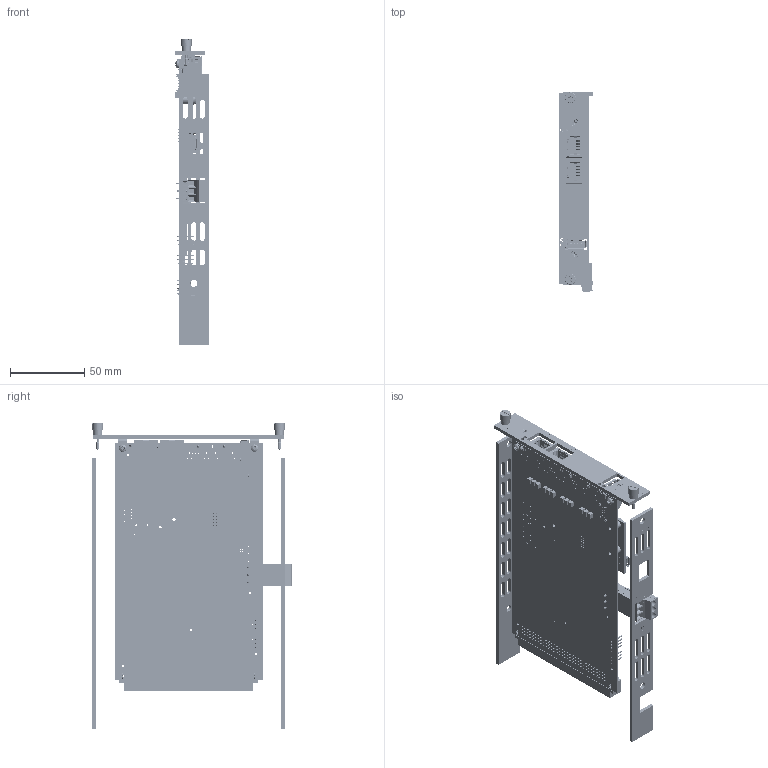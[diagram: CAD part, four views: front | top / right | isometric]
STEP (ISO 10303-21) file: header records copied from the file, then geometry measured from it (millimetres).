
FILE_DESCRIPTION (( 'STEP AP214' ), '1' );
FILE_NAME ('3-4241BEU-2xx-B00000.STEP', '2022-09-28T22:25:47', ( '' ), ( '' ), 'SwSTEP 2.0', 'SolidWorks 2022', '' );
FILE_SCHEMA (( 'AUTOMOTIVE_DESIGN' ));
Length unit declared in the file: inch
Products named in the file (37): 2M1-B03032-551; S14-105017-USB; 014-0RJE73-4K0; S14-CLT000-012; 0S6-001102-ILO; 2M0-603041-550; 025-920440-2004; 014-000031; 0S1-000067; APTB1612YSGC-F01; 300-604241-10X_102_OPT 2- 2 ETHERNET PORTS; 3-4241BEU-2xx-B00000; 0S6-RG1204-000_b; 2M1-B04241-551; 016-P00103-08P; 0S1-LS1021-1KZ; S25-0S0440-250_b; 025-92M2R5-2006_cosmetic; 0S6-001102-ILO_b; 014-000010-2MM; 025-10M2R5-2005_5mm; 0S7-010226-000; 016-090A03-08P; 014-048404-003; 100-0002GB-M3B; 2M2-B04112-551; S14-00DDR3-204; 300-604147-103; S13-0H5007-0NL; 200-604147-553; 200-604019-100_no knurling; 027-000001; 0S1-LCMX02-256; S19-PTS840-0GK; 014-000010; 200-604241-552_Full
Assembly tree (56 placements, depth 4):
  3-4241BEU-2xx-B00000
    2M1-B04241-551
      2M1-B04241-551
      2M0-603041-550  x2
      025-10M2R5-2005_5mm  x2
    300-604241-10X_102_OPT 2- 2 ETHERNET PORTS
      200-604241-552_Full
      0S7-010226-000  x12
      0S1-LCMX02-256
      0S1-LS1021-1KZ
      S13-0H5007-0NL  x2
      014-0RJE73-4K0  x2
      014-048404-003
      016-090A03-08P
      S25-0S0440-250_b  x2
      300-604147-103
        200-604147-553
        S14-105017-USB
        S14-CLT000-012
      0S6-001102-ILO_b
      0S6-RG1204-000_b
      S19-PTS840-0GK
      APTB1612YSGC-F01
      0S6-001102-ILO  x2
      S14-00DDR3-204
      014-000031
      0S1-000067
      014-000010-2MM
      014-000010
    2M2-B04112-551
    2M1-B03032-551
    016-P00103-08P
    027-000001
    025-92M2R5-2006_cosmetic  x2
    100-0002GB-M3B
    025-920440-2004  x2
    200-604019-100_no knurling  x2
Bounding box: 23.04 x 134.4 x 206.42 mm (x, y, z)
Volume: 75010.5 mm3; surface area: 106660.1 mm2
Topology: 377 solids, 394 shells, 16027 faces, 42820 edges, 27927 vertices
Faces by surface type: plane 11143, cylinder 3477, bspline 932, sphere 286, cone 175, torus 14
Entity records: 603121 total; most frequent: CARTESIAN_POINT 149914, ORIENTED_EDGE 76562, DIRECTION 64186, EDGE_CURVE 38385, VECTOR 26062, LINE 26062, VERTEX_POINT 25125, AXIS2_PLACEMENT_3D 19062
